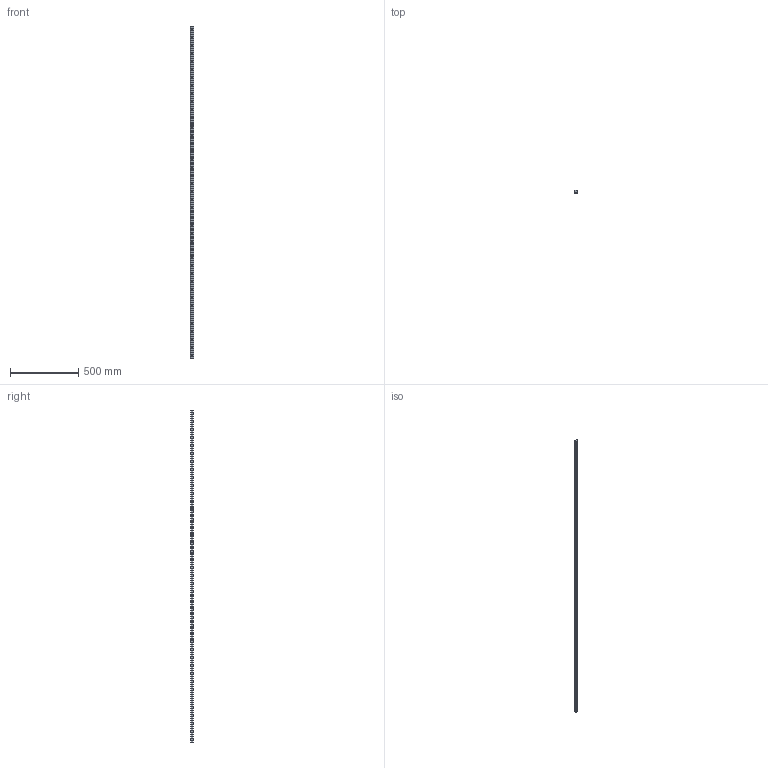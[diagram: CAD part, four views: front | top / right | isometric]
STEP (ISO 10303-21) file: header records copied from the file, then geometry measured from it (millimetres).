
FILE_DESCRIPTION (( 'STEP AP203' ), '1' );
FILE_NAME ('L1016.BRF25-2440.step', '2019-06-13T08:42:20', ( '' ), ( '' ), 'SwSTEP 2.0', 'SolidWorks 2017', '' );
FILE_SCHEMA (( 'CONFIG_CONTROL_DESIGN' ));
Length unit declared in the file: millimetre
Products named in the file (1): L1016.BRF25-2440
Bounding box: 23 x 19.2 x 2440 mm (x, y, z)
Volume: 931578.4 mm3; surface area: 224690.3 mm2
Topology: 1 solids, 1 shells, 313 faces, 728 edges, 417 vertices
Faces by surface type: cylinder 168, cone 82, plane 63
Entity records: 8445 total; most frequent: DIRECTION 1610, CARTESIAN_POINT 1377, ORIENTED_EDGE 1292, AXIS2_PLACEMENT_3D 650, EDGE_CURVE 646, VERTEX_POINT 417, EDGE_LOOP 395, CIRCLE 336
